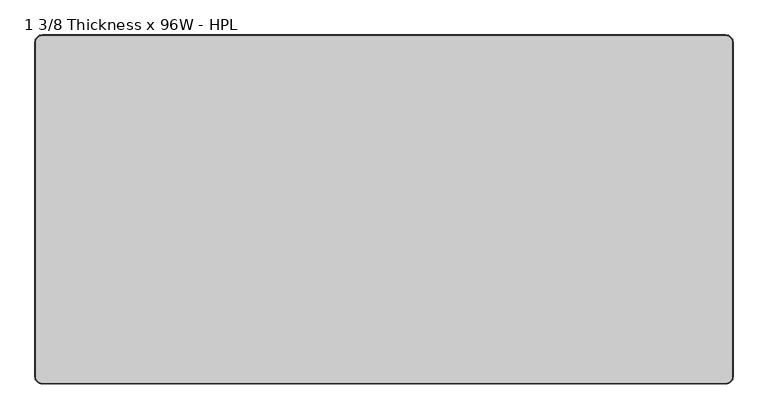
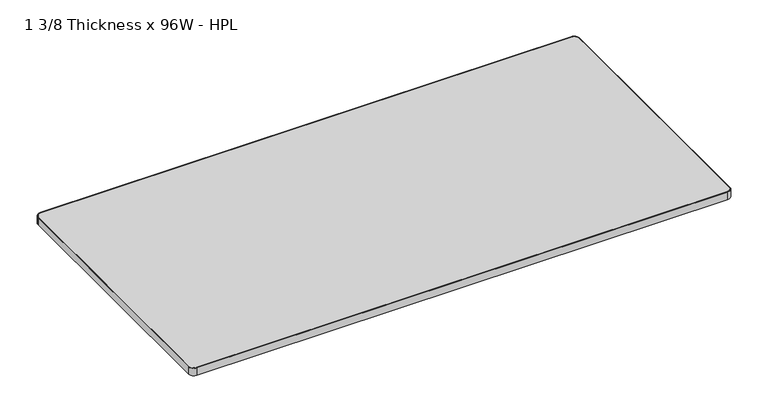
"""IFC4 building model written with IfcOpenShell, lengths in millimetres: furniture geometry, Steelcase - Groupwork - Table - Conference Table Top - Rectangular : 1 3/8 Thickness x 96W - HPL."""

from ifc_helpers import new_model, si_unit, point, frame, frame_2d, origin, place, context, project, spatial, polyline, circle_curve, trimmed, segment, composite_curve, outline, extrude, source, transform, mapped, element, save


def furniture_1_3_8_thickness_x_96w_hpl_96594def(model_context):
    return source(origin(), model_context, "Body", "SweptSolid", [
        extrude(outline(composite_curve([segment(polyline([(-1221.74, 606.6), (1164.94, 606.6)]), True, "CONTINUOUS"), segment(trimmed(circle_curve(frame_2d((1164.94, 583.74)), 22.86), [point((1164.94, 606.6))], [point((1187.8, 583.74))], False, "CARTESIAN"), True, "CONTINUOUS"), segment(polyline([(1187.8, 583.74), (1187.8, -583.74)]), True, "CONTINUOUS"), segment(trimmed(circle_curve(frame_2d((1164.94, -583.74)), 22.86), [point((1187.8, -583.74))], [point((1164.94, -606.6))], False, "CARTESIAN"), True, "CONTINUOUS"), segment(polyline([(1164.94, -606.6), (-1221.74, -606.6)]), True, "CONTINUOUS"), segment(trimmed(circle_curve(frame_2d((-1221.74, -583.74)), 22.86), [point((-1221.74, -606.6))], [point((-1244.6, -583.74))], False, "CARTESIAN"), True, "CONTINUOUS"), segment(polyline([(-1244.6, -583.74), (-1244.6, 583.74)]), True, "CONTINUOUS"), segment(trimmed(circle_curve(frame_2d((-1221.74, 583.74)), 22.86), [point((-1244.6, 583.74))], [point((-1221.74, 606.6))], False, "CARTESIAN"), True, "CONTINUOUS")], self_intersect=False)), frame((0.0, 0.0, 694.944), z_axis=(0.0, 0.0, 1.0), x_axis=(1.0, 0.0, 0.0)), (0.0, 0.0, 1.0), 35.052),
        extrude(outline(composite_curve([segment(trimmed(circle_curve(frame_2d((1165.3385373, 584.1385373)), 25.4614627), [point((1165.3385373, 609.6))], [point((1190.8, 584.1385373))], False, "CARTESIAN"), True, "CONTINUOUS"), segment(polyline([(1190.8, 584.1385373), (1190.8, -584.2211297)]), True, "CONTINUOUS"), segment(trimmed(circle_curve(frame_2d((1165.4211297, -584.2211297)), 25.3788703), [point((1190.8, -584.2211297))], [point((1165.4211297, -609.6))], False, "CARTESIAN"), True, "CONTINUOUS"), segment(polyline([(1165.4211297, -609.6), (-1222.2, -609.6)]), True, "CONTINUOUS"), segment(trimmed(circle_curve(frame_2d((-1222.2, -584.2)), 25.4), [point((-1222.2, -609.6))], [point((-1247.6, -584.2))], False, "CARTESIAN"), True, "CONTINUOUS"), segment(polyline([(-1247.6, -584.2), (-1247.6, 584.2)]), True, "CONTINUOUS"), segment(trimmed(circle_curve(frame_2d((-1222.2, 584.2)), 25.4), [point((-1247.6, 584.2))], [point((-1222.2, 609.6))], False, "CARTESIAN"), True, "CONTINUOUS"), segment(polyline([(-1222.2, 609.6), (1165.3385373, 609.6)]), True, "CONTINUOUS")], self_intersect=False), holes=[composite_curve([segment(polyline([(1165.0064662, 606.6), (-1221.74, 606.6)]), True, "CONTINUOUS"), segment(trimmed(circle_curve(frame_2d((-1221.74, 583.74)), 22.86), [point((-1221.74, 606.6))], [point((-1244.6, 583.74))], True, "CARTESIAN"), True, "CONTINUOUS"), segment(polyline([(-1244.6, 583.74), (-1244.6, -583.74)]), True, "CONTINUOUS"), segment(trimmed(circle_curve(frame_2d((-1221.74, -583.74)), 22.86), [point((-1244.6, -583.74))], [point((-1221.74, -606.6))], True, "CARTESIAN"), True, "CONTINUOUS"), segment(polyline([(-1221.74, -606.6), (1164.773488, -606.6)]), True, "CONTINUOUS"), segment(trimmed(circle_curve(frame_2d((1164.773488, -583.573488)), 23.026512), [point((1164.773488, -606.6))], [point((1187.8, -583.573488))], True, "CARTESIAN"), True, "CONTINUOUS"), segment(polyline([(1187.8, -583.573488), (1187.8, 583.8064662)]), True, "CONTINUOUS"), segment(trimmed(circle_curve(frame_2d((1165.0064662, 583.8064662)), 22.7935338), [point((1187.8, 583.8064662))], [point((1165.0064662, 606.6))], True, "CARTESIAN"), True, "CONTINUOUS")], self_intersect=False)]), frame((0.0, 0.0, 694.944), z_axis=(0.0, 0.0, 1.0), x_axis=(1.0, 0.0, 0.0)), (0.0, 0.0, 1.0), 35.052),
    ])


if __name__ == "__main__":
    model = new_model("IFC4")
    model_context = context("Model", 3, world=origin())
    ifc_project = project(units=[si_unit("LENGTHUNIT", "METRE", prefix="MILLI")], contexts=[model_context])
    site = spatial("IfcSite", under=ifc_project)
    building = spatial("IfcBuilding", under=site)
    placement = place(None, origin())
    furniture_1_3_8_thickness_x_96w_hpl_shape = furniture_1_3_8_thickness_x_96w_hpl_96594def(model_context)
    element("IfcFurniture", 1, ObjectType="Steelcase - Groupwork - Table - Conference Table Top - Rectangular : 1 3/8 Thickness x 96W - HPL", at=placement, inside=building, context=model_context, shape_type="MappedRepresentation", body=[
        mapped(furniture_1_3_8_thickness_x_96w_hpl_shape, transform((0.0, 0.0, 0.0), x_axis=(1.0, 0.0, 0.0), y_axis=(0.0, 1.0, 0.0), z_axis=(0.0, 0.0, 1.0))),
    ])
    save(model, "model.ifc")
